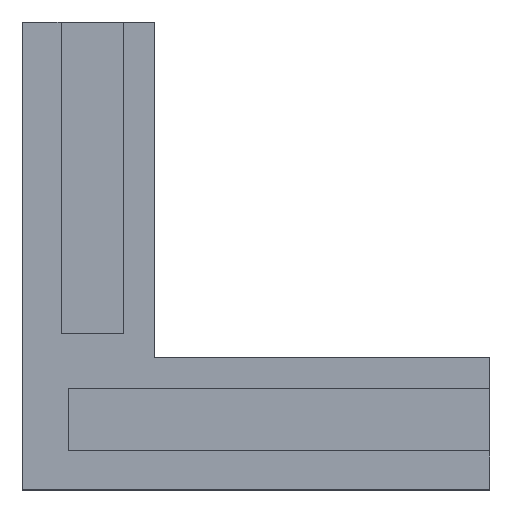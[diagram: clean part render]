
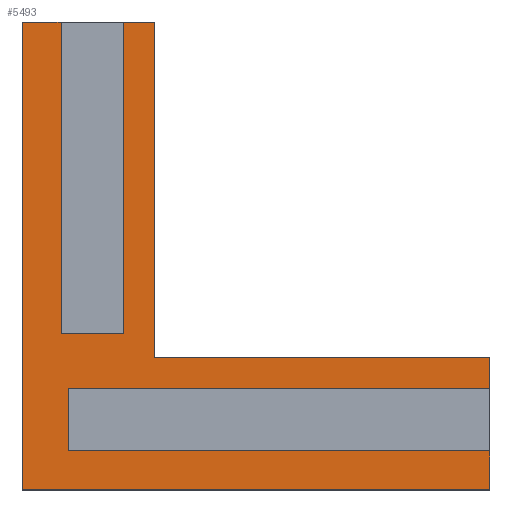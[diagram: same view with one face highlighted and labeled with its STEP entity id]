
A CAD part, top view. The second image highlights one B-rep face of the part: STEP entity #5493.
In plain terms, the highlighted planar face has unit normal (0, 0, 1).
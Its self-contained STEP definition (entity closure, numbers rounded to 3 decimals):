
#88 = ORIENTED_EDGE ( 'NONE', *, *, #2514, .T. ) ;
#545 = VERTEX_POINT ( 'NONE', #1115 ) ;
#593 = VERTEX_POINT ( 'NONE', #9040 ) ;
#760 = LINE ( 'NONE', #9982, #5486 ) ;
#821 = VECTOR ( 'NONE', #7876, 1000. ) ;
#871 = LINE ( 'NONE', #10095, #2017 ) ;
#875 = CARTESIAN_POINT ( 'NONE',  ( 0., 0., 3. ) ) ;
#886 = CARTESIAN_POINT ( 'NONE',  ( 30., 8.5, 3. ) ) ;
#974 = LINE ( 'NONE', #10194, #7633 ) ;
#1059 = DIRECTION ( 'NONE',  ( 0., 1., 0. ) ) ;
#1113 = VERTEX_POINT ( 'NONE', #8223 ) ;
#1115 = CARTESIAN_POINT ( 'NONE',  ( 2.5, 30., 3. ) ) ;
#1171 = ORIENTED_EDGE ( 'NONE', *, *, #5849, .T. ) ;
#1222 = CARTESIAN_POINT ( 'NONE',  ( 2.5, 10., 3. ) ) ;
#1348 = EDGE_CURVE ( 'NONE', #593, #6222, #871, .T. ) ;
#1600 = CARTESIAN_POINT ( 'NONE',  ( 8.5, 30., 3. ) ) ;
#1945 = LINE ( 'NONE', #875, #2801 ) ;
#1960 = LINE ( 'NONE', #886, #5343 ) ;
#1973 = EDGE_CURVE ( 'NONE', #9519, #5960, #9972, .T. ) ;
#2017 = VECTOR ( 'NONE', #9045, 1000. ) ;
#2135 = CARTESIAN_POINT ( 'NONE',  ( 6.5, 30., 3. ) ) ;
#2419 = ORIENTED_EDGE ( 'NONE', *, *, #9571, .F. ) ;
#2472 = DIRECTION ( 'NONE',  ( -1., 0., 0. ) ) ;
#2480 = ORIENTED_EDGE ( 'NONE', *, *, #6436, .F. ) ;
#2514 = EDGE_CURVE ( 'NONE', #1113, #7795, #1945, .T. ) ;
#2516 = ORIENTED_EDGE ( 'NONE', *, *, #1973, .T. ) ;
#2727 = DIRECTION ( 'NONE',  ( -1., 0., 0. ) ) ;
#2747 = ORIENTED_EDGE ( 'NONE', *, *, #4088, .T. ) ;
#2801 = VECTOR ( 'NONE', #10099, 1000. ) ;
#2846 = ORIENTED_EDGE ( 'NONE', *, *, #8193, .F. ) ;
#2920 = EDGE_CURVE ( 'NONE', #6373, #593, #5136, .T. ) ;
#2940 = VECTOR ( 'NONE', #3030, 1000. ) ;
#2943 = VECTOR ( 'NONE', #2996, 1000. ) ;
#2987 = ORIENTED_EDGE ( 'NONE', *, *, #1348, .F. ) ;
#2996 = DIRECTION ( 'NONE',  ( -1., 0., 0. ) ) ;
#3030 = DIRECTION ( 'NONE',  ( 0., -1., 0. ) ) ;
#3145 = FACE_OUTER_BOUND ( 'NONE', #5654, .T. ) ;
#3160 = DIRECTION ( 'NONE',  ( 0., -1., 0. ) ) ;
#3192 = LINE ( 'NONE', #2135, #3835 ) ;
#3284 = VECTOR ( 'NONE', #6298, 1000. ) ;
#3408 = AXIS2_PLACEMENT_3D ( 'NONE', #4614, #3549, #2472 ) ;
#3417 = EDGE_CURVE ( 'NONE', #6013, #5768, #8992, .T. ) ;
#3549 = DIRECTION ( 'NONE',  ( 0., 0., -1. ) ) ;
#3698 = ORIENTED_EDGE ( 'NONE', *, *, #5030, .T. ) ;
#3803 = CARTESIAN_POINT ( 'NONE',  ( 30., 6.5, 3. ) ) ;
#3835 = VECTOR ( 'NONE', #1059, 1000. ) ;
#4056 = CARTESIAN_POINT ( 'NONE',  ( 8.5, 8.5, 3. ) ) ;
#4088 = EDGE_CURVE ( 'NONE', #7590, #9097, #1960, .T. ) ;
#4090 = CARTESIAN_POINT ( 'NONE',  ( 3., 6.5, 3. ) ) ;
#4210 = EDGE_CURVE ( 'NONE', #545, #1113, #9866, .T. ) ;
#4222 = CARTESIAN_POINT ( 'NONE',  ( 2.5, 30., 3. ) ) ;
#4240 = ORIENTED_EDGE ( 'NONE', *, *, #3417, .F. ) ;
#4258 = CARTESIAN_POINT ( 'NONE',  ( 8.5, 8.5, 3. ) ) ;
#4281 = EDGE_CURVE ( 'NONE', #7795, #9101, #8388, .T. ) ;
#4614 = CARTESIAN_POINT ( 'NONE',  ( 0., 0., 3. ) ) ;
#4845 = LINE ( 'NONE', #3803, #9314 ) ;
#5030 = EDGE_CURVE ( 'NONE', #9101, #6222, #760, .T. ) ;
#5100 = LINE ( 'NONE', #4056, #2943 ) ;
#5136 = LINE ( 'NONE', #4090, #2940 ) ;
#5182 = CARTESIAN_POINT ( 'NONE',  ( 30., 0., 3. ) ) ;
#5269 = LINE ( 'NONE', #4222, #8810 ) ;
#5282 = CARTESIAN_POINT ( 'NONE',  ( 0., 0., 3. ) ) ;
#5343 = VECTOR ( 'NONE', #10112, 1000. ) ;
#5486 = VECTOR ( 'NONE', #8922, 1000. ) ;
#5493 = ADVANCED_FACE ( 'NONE', ( #3145 ), #5648, .F. ) ;
#5511 = CARTESIAN_POINT ( 'NONE',  ( 30., 2.5, 3. ) ) ;
#5648 = PLANE ( 'NONE',  #3408 ) ;
#5654 = EDGE_LOOP ( 'NONE', ( #2846, #2747, #6619, #2516, #1171, #2419, #4240, #2480, #6893, #88, #10030, #3698, #2987, #5879 ) ) ;
#5768 = VERTEX_POINT ( 'NONE', #8037 ) ;
#5849 = EDGE_CURVE ( 'NONE', #5960, #6025, #974, .T. ) ;
#5879 = ORIENTED_EDGE ( 'NONE', *, *, #2920, .F. ) ;
#5960 = VERTEX_POINT ( 'NONE', #1600 ) ;
#6013 = VERTEX_POINT ( 'NONE', #1222 ) ;
#6025 = VERTEX_POINT ( 'NONE', #9397 ) ;
#6222 = VERTEX_POINT ( 'NONE', #5511 ) ;
#6298 = DIRECTION ( 'NONE',  ( 1., 0., 0. ) ) ;
#6373 = VERTEX_POINT ( 'NONE', #7345 ) ;
#6436 = EDGE_CURVE ( 'NONE', #545, #6013, #5269, .T. ) ;
#6619 = ORIENTED_EDGE ( 'NONE', *, *, #10177, .T. ) ;
#6893 = ORIENTED_EDGE ( 'NONE', *, *, #4210, .T. ) ;
#6908 = DIRECTION ( 'NONE',  ( 1., 0., 0. ) ) ;
#7257 = CARTESIAN_POINT ( 'NONE',  ( 30., 8.5, 3. ) ) ;
#7301 = CARTESIAN_POINT ( 'NONE',  ( 30., 6.5, 3. ) ) ;
#7335 = CARTESIAN_POINT ( 'NONE',  ( 30., 0., 3. ) ) ;
#7345 = CARTESIAN_POINT ( 'NONE',  ( 3., 6.5, 3. ) ) ;
#7590 = VERTEX_POINT ( 'NONE', #7301 ) ;
#7633 = VECTOR ( 'NONE', #9156, 1000. ) ;
#7663 = VECTOR ( 'NONE', #6908, 1000. ) ;
#7775 = DIRECTION ( 'NONE',  ( -1., 0., 0. ) ) ;
#7795 = VERTEX_POINT ( 'NONE', #5282 ) ;
#7876 = DIRECTION ( 'NONE',  ( 0., 1., 0. ) ) ;
#7948 = CARTESIAN_POINT ( 'NONE',  ( 2.5, 10., 3. ) ) ;
#8037 = CARTESIAN_POINT ( 'NONE',  ( 6.5, 10., 3. ) ) ;
#8193 = EDGE_CURVE ( 'NONE', #7590, #6373, #4845, .T. ) ;
#8223 = CARTESIAN_POINT ( 'NONE',  ( 0., 30., 3. ) ) ;
#8388 = LINE ( 'NONE', #7335, #3284 ) ;
#8810 = VECTOR ( 'NONE', #3160, 1000. ) ;
#8813 = CARTESIAN_POINT ( 'NONE',  ( 0., 30., 3. ) ) ;
#8916 = CARTESIAN_POINT ( 'NONE',  ( 8.5, 30., 3. ) ) ;
#8922 = DIRECTION ( 'NONE',  ( 0., 1., 0. ) ) ;
#8992 = LINE ( 'NONE', #7948, #7663 ) ;
#9040 = CARTESIAN_POINT ( 'NONE',  ( 3., 2.5, 3. ) ) ;
#9045 = DIRECTION ( 'NONE',  ( 1., 0., 0. ) ) ;
#9097 = VERTEX_POINT ( 'NONE', #7257 ) ;
#9101 = VERTEX_POINT ( 'NONE', #5182 ) ;
#9156 = DIRECTION ( 'NONE',  ( -1., 0., 0. ) ) ;
#9297 = VECTOR ( 'NONE', #7775, 1000. ) ;
#9314 = VECTOR ( 'NONE', #2727, 1000. ) ;
#9397 = CARTESIAN_POINT ( 'NONE',  ( 6.5, 30., 3. ) ) ;
#9519 = VERTEX_POINT ( 'NONE', #4258 ) ;
#9571 = EDGE_CURVE ( 'NONE', #5768, #6025, #3192, .T. ) ;
#9866 = LINE ( 'NONE', #8813, #9297 ) ;
#9972 = LINE ( 'NONE', #8916, #821 ) ;
#9982 = CARTESIAN_POINT ( 'NONE',  ( 30., 8.5, 3. ) ) ;
#10030 = ORIENTED_EDGE ( 'NONE', *, *, #4281, .T. ) ;
#10095 = CARTESIAN_POINT ( 'NONE',  ( 30., 2.5, 3. ) ) ;
#10099 = DIRECTION ( 'NONE',  ( 0., -1., 0. ) ) ;
#10112 = DIRECTION ( 'NONE',  ( 0., 1., 0. ) ) ;
#10177 = EDGE_CURVE ( 'NONE', #9097, #9519, #5100, .T. ) ;
#10194 = CARTESIAN_POINT ( 'NONE',  ( 0., 30., 3. ) ) ;
